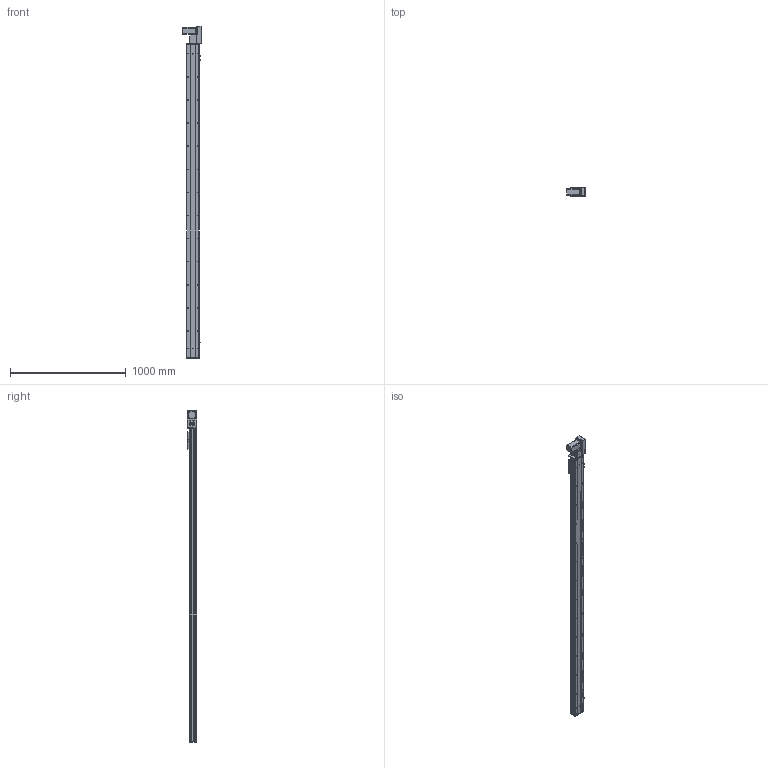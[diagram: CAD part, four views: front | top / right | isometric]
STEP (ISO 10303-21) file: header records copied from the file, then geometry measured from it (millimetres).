
FILE_DESCRIPTION (( 'STEP AP203' ), '1' );
FILE_NAME ('Y10CB-D90-S2450-BR-P400W.STEP', '2020-02-16T02:26:10', ( '微软用户' ), ( '微软中国' ), 'SwSTEP 2.0', 'SolidWorks 2017', '' );
FILE_SCHEMA (( 'CONFIG_CONTROL_DESIGN' ));
Length unit declared in the file: millimetre
Products named in the file (18): Y10B-耜蚾蟀諉啣----; Y10B--々湍喘謫眊--666; 10CB9-掛极; 0B-萇儂楊擘啣; Y10CB-D90-S2450-BR-P400W; 10CB-耜裔; san松下电机400不带刹车----; Y135C-陔俋离換覜結え-; 0B-源倛裔啣; Y100-135俋离換覜ん--; 0B-埴倛裔啣; Y俋欶BR----; 0CB-雄赽釱---; 10CB-詩湍-; 0Cb-俋欶---; Y10CB- 掛极耜裔啣-毀---; Y10B-々湍喘謫眊楊擘啣--; Y10C---詩湍揤啣
Assembly tree (21 placements, depth 2):
  Y10CB-D90-S2450-BR-P400W
    0CB-雄赽釱---
    0Cb-俋欶---
    Y10B-々湍喘謫眊楊擘啣--
    Y10B-耜蚾蟀諉啣----
    0B-萇儂楊擘啣
    san松下电机400不带刹车----
    0B-源倛裔啣
    0B-埴倛裔啣
    Y俋欶BR----
    10CB-詩湍-
    Y10CB- 掛极耜裔啣-毀---  x2
    Y10C---詩湍揤啣  x2
    10CB9-掛极
    10CB-耜裔
    Y135C-陔俋离換覜結え-
    Y100-135俋离換覜ん--  x3
    Y10B--々湍喘謫眊--666
Bounding box: 157.5 x 80.5 x 2872.5 mm (x, y, z)
Volume: 5667034.2 mm3; surface area: 2689159.8 mm2
Topology: 21 solids, 21 shells, 1074 faces, 2923 edges, 1898 vertices
Faces by surface type: cylinder 557, plane 493, cone 24
Entity records: 34404 total; most frequent: CARTESIAN_POINT 6505, DIRECTION 5470, ORIENTED_EDGE 5316, EDGE_CURVE 2658, AXIS2_PLACEMENT_3D 1953, VERTEX_POINT 1724, VECTOR 1564, LINE 1564
